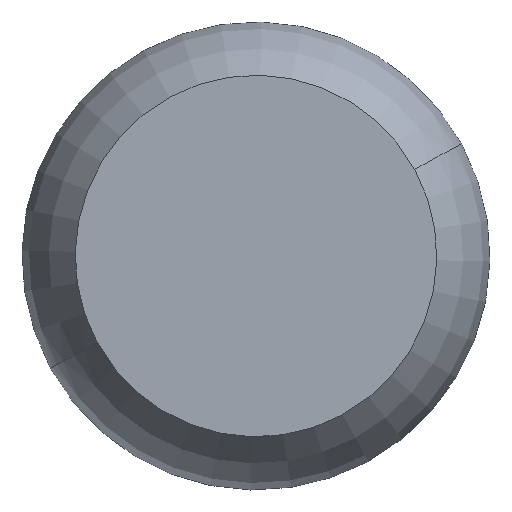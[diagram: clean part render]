
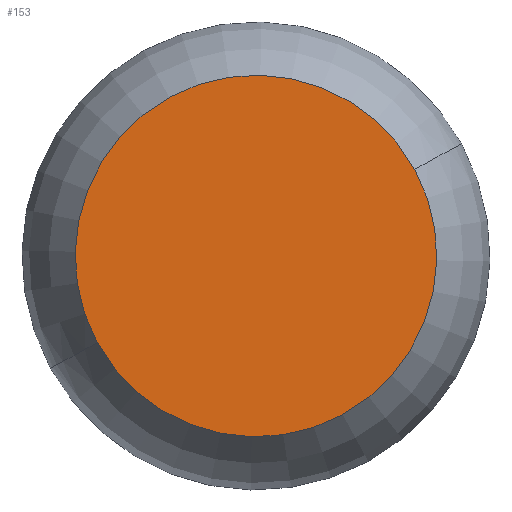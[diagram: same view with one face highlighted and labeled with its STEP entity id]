
A CAD part, front view. The second image highlights one B-rep face of the part: STEP entity #153.
In plain terms, the highlighted planar face has unit normal (0, -1, 0).
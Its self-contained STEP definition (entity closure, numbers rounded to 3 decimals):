
#66=CARTESIAN_POINT('Axis2P3D Location',(0.,0.,0.)) ;
#70=CARTESIAN_POINT('Vertex',(99.167,0.,54.175)) ;
#72=CARTESIAN_POINT('Vertex',(-99.167,0.,-54.175)) ;
#127=CARTESIAN_POINT('Axis2P3D Location',(0.,0.,0.)) ;
#144=CARTESIAN_POINT('Axis2P3D Location',(0.,0.,0.)) ;
#67=DIRECTION('Axis2P3D Direction',(0.,-1.,0.)) ;
#128=DIRECTION('Axis2P3D Direction',(0.,-1.,0.)) ;
#145=DIRECTION('Axis2P3D Direction',(0.,-1.,0.)) ;
#146=DIRECTION('Axis2P3D XDirection',(1.,0.,0.)) ;
#68=AXIS2_PLACEMENT_3D('Circle Axis2P3D',#66,#67,$) ;
#129=AXIS2_PLACEMENT_3D('Circle Axis2P3D',#127,#128,$) ;
#147=AXIS2_PLACEMENT_3D('Plane Axis2P3D',#144,#145,#146) ;
#150=ORIENTED_EDGE('',*,*,#74,.T.) ;
#151=ORIENTED_EDGE('',*,*,#131,.T.) ;
#153=ADVANCED_FACE('PartBody',(#152),#148,.T.) ;
#69=CIRCLE('generated circle',#68,113.) ;
#130=CIRCLE('generated circle',#129,113.) ;
#74=EDGE_CURVE('',#71,#73,#69,.T.) ;
#131=EDGE_CURVE('',#73,#71,#130,.T.) ;
#149=EDGE_LOOP('',(#150,#151)) ;
#152=FACE_OUTER_BOUND('',#149,.T.) ;
#148=PLANE('',#147) ;
#71=VERTEX_POINT('',#70) ;
#73=VERTEX_POINT('',#72) ;
